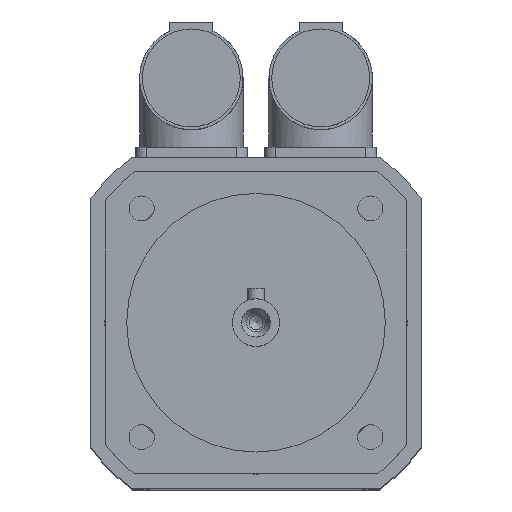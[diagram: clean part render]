
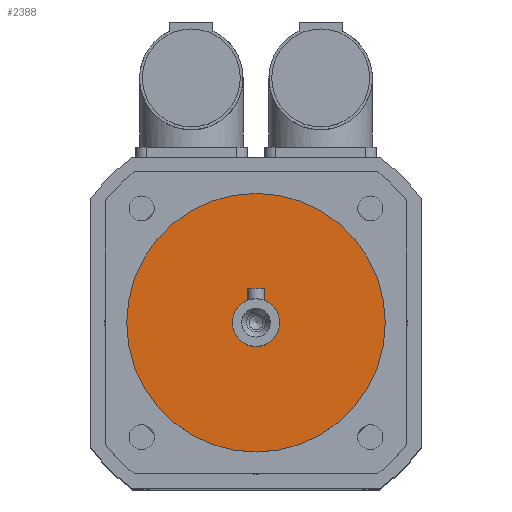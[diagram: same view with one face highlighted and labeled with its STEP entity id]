
A CAD part, top view. The second image highlights one B-rep face of the part: STEP entity #2388.
In plain terms, the highlighted planar face has unit normal (0, 0, 1).
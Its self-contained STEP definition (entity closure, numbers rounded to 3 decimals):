
#484=PLANE('',#2572);
#601=FACE_BOUND('',#819,.T.);
#665=FACE_OUTER_BOUND('',#818,.T.);
#818=EDGE_LOOP('',(#1867));
#819=EDGE_LOOP('',(#1868));
#965=CIRCLE('',#2571,5.5);
#966=CIRCLE('',#2573,30.);
#1130=VERTEX_POINT('',#3794);
#1131=VERTEX_POINT('',#3797);
#1405=EDGE_CURVE('',#1130,#1130,#965,.T.);
#1406=EDGE_CURVE('',#1131,#1131,#966,.T.);
#1867=ORIENTED_EDGE('',*,*,#1406,.F.);
#1868=ORIENTED_EDGE('',*,*,#1405,.T.);
#2388=ADVANCED_FACE('',(#665,#601),#484,.T.);
#2571=AXIS2_PLACEMENT_3D('',#3795,#2996,#2997);
#2572=AXIS2_PLACEMENT_3D('',#3796,#2998,#2999);
#2573=AXIS2_PLACEMENT_3D('',#3798,#3000,#3001);
#2996=DIRECTION('center_axis',(0.,0.,-1.));
#2997=DIRECTION('ref_axis',(1.,0.,0.));
#2998=DIRECTION('center_axis',(0.,0.,1.));
#2999=DIRECTION('ref_axis',(1.,0.,0.));
#3000=DIRECTION('center_axis',(0.,0.,-1.));
#3001=DIRECTION('ref_axis',(1.,0.,0.));
#3794=CARTESIAN_POINT('',(0.,5.5,158.));
#3795=CARTESIAN_POINT('Origin',(0.,0.,158.));
#3796=CARTESIAN_POINT('Origin',(0.,30.,158.));
#3797=CARTESIAN_POINT('',(0.,30.,158.));
#3798=CARTESIAN_POINT('Origin',(0.,0.,158.));
